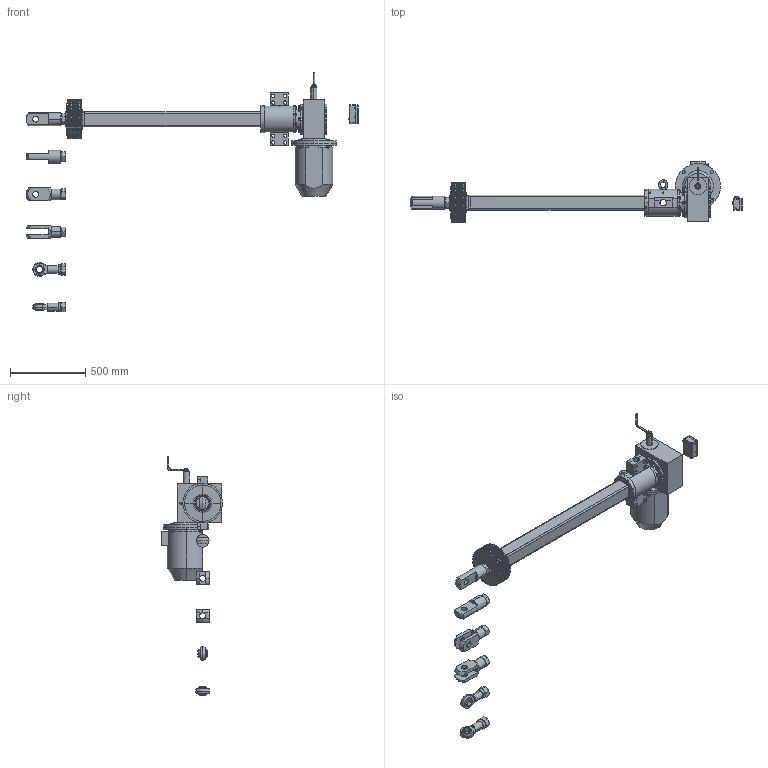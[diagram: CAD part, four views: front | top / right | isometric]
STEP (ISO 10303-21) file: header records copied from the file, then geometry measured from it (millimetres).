
FILE_DESCRIPTION (( 'STEP AP203' ), '1' );
FILE_NAME ('Ì4 6 1000.STEP', '2016-12-22T08:30:44', ( '' ), ( '' ), 'SwSTEP 2.0', 'SolidWorks 2012', '' );
FILE_SCHEMA (( 'CONFIG_CONTROL_DESIGN' ));
Length unit declared in the file: millimetre
Products named in the file (9): ﾌ4 6 1000; Ãîôð Ñ4_•®¤600; 迕 6; 苂 6; 迍 6; ﾁﾑﾏ; Ñ4 6 ïåðåä áàçà; ﾒ矜 6_1000; ﾌ4 6 矜鈞
Assembly tree (11 placements, depth 2):
  ﾌ4 6 1000
    ﾌ4 6 矜鈞
    ﾒ矜 6_1000
    Ñ4 6 ïåðåä áàçà
    ﾁﾑﾏ
    迍 6  x2
    苂 6  x2
    迕 6  x2
    Ãîôð Ñ4_•®¤600
Bounding box: 2208 x 406 x 1596 mm (x, y, z)
Volume: 1746895.8 mm3; surface area: 6366938.5 mm2
Topology: 1 solids, 211 shells, 1899 faces, 5158 edges, 3490 vertices
Faces by surface type: plane 756, cylinder 603, cone 404, sphere 64, torus 60, bspline 12
Entity records: 60711 total; most frequent: CARTESIAN_POINT 14523, DIRECTION 10102, ORIENTED_EDGE 8162, EDGE_CURVE 4800, AXIS2_PLACEMENT_3D 4049, VERTEX_POINT 3272, CIRCLE 2253, EDGE_LOOP 2120
